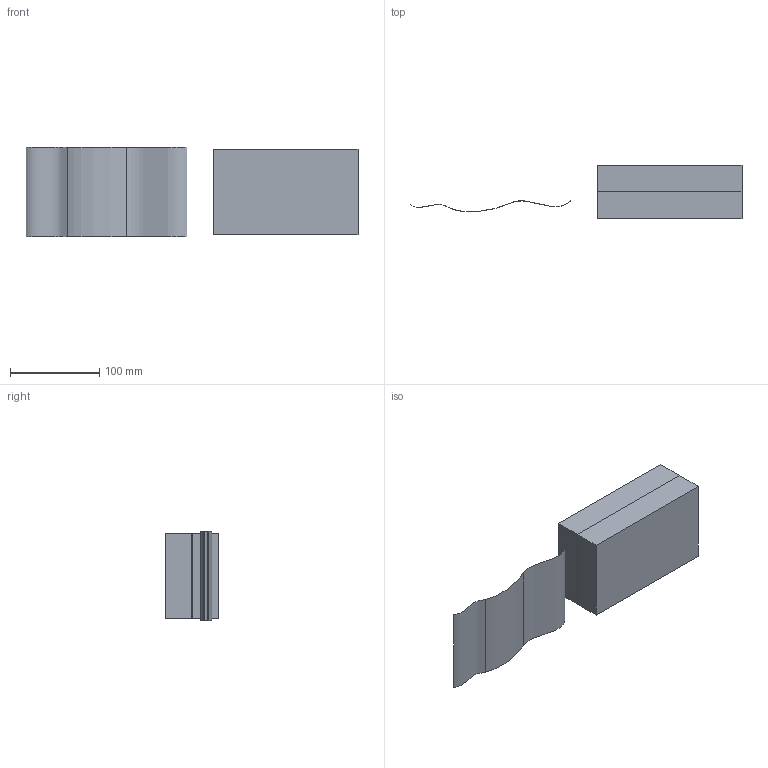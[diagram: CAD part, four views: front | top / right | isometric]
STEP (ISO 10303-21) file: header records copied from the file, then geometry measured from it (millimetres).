
FILE_DESCRIPTION (( 'STEP AP203' ), '1' );
FILE_NAME ('10.1.STEP', '2025-10-27T22:19:37', ( '' ), ( '' ), 'SwSTEP 2.0', 'SolidWorks 2025', '' );
FILE_SCHEMA (( 'CONFIG_CONTROL_DESIGN' ));
Length unit declared in the file: millimetre
Products named in the file (1): 10.1
Bounding box: 372.5 x 60.01 x 100 mm (x, y, z)
Surface area: 80652.2 mm2 (no closed solid volume)
Topology: 0 solids, 6 shells, 13 faces, 40 edges, 32 vertices
Faces by surface type: plane 10, bspline 3
Entity records: 532 total; most frequent: CARTESIAN_POINT 129, DIRECTION 56, ORIENTED_EDGE 52, EDGE_CURVE 40, LINE 34, VECTOR 34, VERTEX_POINT 32, FACE_OUTER_BOUND 13
